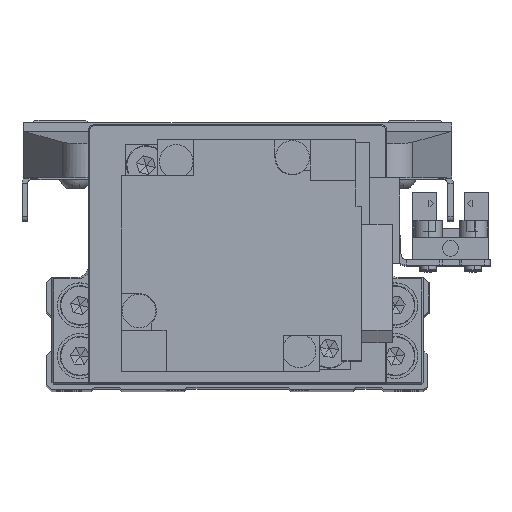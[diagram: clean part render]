
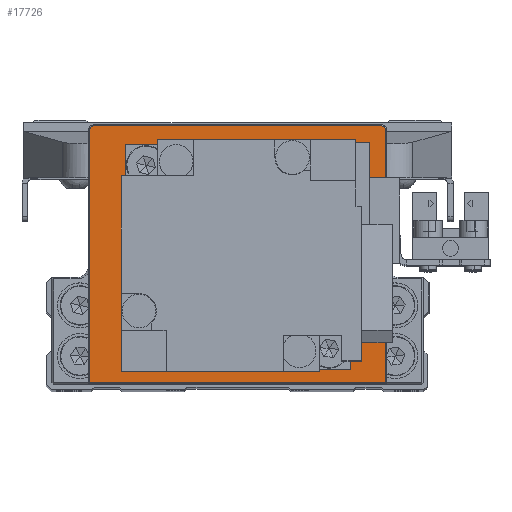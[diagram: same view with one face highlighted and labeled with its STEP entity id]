
A CAD part, top view. The second image highlights one B-rep face of the part: STEP entity #17726.
In plain terms, the highlighted planar face has unit normal (0, 0, 1) as drawn and (0, -1, 0) by its records, which use the part's own axes.
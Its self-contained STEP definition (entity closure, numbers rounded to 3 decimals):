
#19 = CARTESIAN_POINT ( 'NONE',  ( 25.5, -4., 22.8 ) ) ;
#72 = CARTESIAN_POINT ( 'NONE',  ( -26.3, -4., 22. ) ) ;
#1342 = PLANE ( 'NONE',  #17231 ) ;
#1753 = VECTOR ( 'NONE', #2987, 1000. ) ;
#1903 = CARTESIAN_POINT ( 'NONE',  ( 25.5, -4., 22. ) ) ;
#2987 = DIRECTION ( 'NONE',  ( -1., 0., 0. ) ) ;
#3272 = ORIENTED_EDGE ( 'NONE', *, *, #19262, .T. ) ;
#5788 = DIRECTION ( 'NONE',  ( 0., -1., 0. ) ) ;
#5911 = VECTOR ( 'NONE', #18648, 1000. ) ;
#6180 = CARTESIAN_POINT ( 'NONE',  ( -26.3, -4., -23. ) ) ;
#7114 = VECTOR ( 'NONE', #19130, 1000. ) ;
#7195 = CARTESIAN_POINT ( 'NONE',  ( 26.5, -4., -22.8 ) ) ;
#7621 = VERTEX_POINT ( 'NONE', #28137 ) ;
#7675 = CARTESIAN_POINT ( 'NONE',  ( 26.3, -4., 22. ) ) ;
#7991 = CIRCLE ( 'NONE', #28958, 0.8 ) ;
#8071 = EDGE_CURVE ( 'NONE', #7621, #33698, #12110, .T. ) ;
#9381 = VERTEX_POINT ( 'NONE', #26958 ) ;
#11324 = ORIENTED_EDGE ( 'NONE', *, *, #19232, .T. ) ;
#11872 = ORIENTED_EDGE ( 'NONE', *, *, #19069, .T. ) ;
#12110 = CIRCLE ( 'NONE', #33063, 0.8 ) ;
#12779 = CARTESIAN_POINT ( 'NONE',  ( 0., -4., 0. ) ) ;
#13352 = DIRECTION ( 'NONE',  ( 0., -1., 0. ) ) ;
#14207 = EDGE_CURVE ( 'NONE', #9381, #25690, #7991, .T. ) ;
#17231 = AXIS2_PLACEMENT_3D ( 'NONE', #12779, #24213, #35617 ) ;
#17238 = DIRECTION ( 'NONE',  ( 0., 0., -1. ) ) ;
#17252 = LINE ( 'NONE', #28666, #1753 ) ;
#17629 = DIRECTION ( 'NONE',  ( 0., 0., -1. ) ) ;
#17726 = ADVANCED_FACE ( 'NONE', ( #27007 ), #1342, .T. ) ;
#18648 = DIRECTION ( 'NONE',  ( 1., 0., 0. ) ) ;
#19069 = EDGE_CURVE ( 'NONE', #29294, #9381, #33370, .T. ) ;
#19130 = DIRECTION ( 'NONE',  ( 0., 0., 1. ) ) ;
#19232 = EDGE_CURVE ( 'NONE', #25690, #7621, #17252, .T. ) ;
#19262 = EDGE_CURVE ( 'NONE', #33698, #34117, #31850, .T. ) ;
#21285 = ORIENTED_EDGE ( 'NONE', *, *, #14207, .T. ) ;
#24213 = DIRECTION ( 'NONE',  ( 0., -1., 0. ) ) ;
#24781 = DIRECTION ( 'NONE',  ( 0., 0., -1. ) ) ;
#25079 = EDGE_CURVE ( 'NONE', #34117, #29294, #32873, .T. ) ;
#25156 = CARTESIAN_POINT ( 'NONE',  ( -26.3, -4., -22.8 ) ) ;
#25690 = VERTEX_POINT ( 'NONE', #19 ) ;
#26539 = ORIENTED_EDGE ( 'NONE', *, *, #25079, .T. ) ;
#26958 = CARTESIAN_POINT ( 'NONE',  ( 26.3, -4., 22. ) ) ;
#27007 = FACE_OUTER_BOUND ( 'NONE', #32148, .T. ) ;
#27100 = ORIENTED_EDGE ( 'NONE', *, *, #8071, .T. ) ;
#28137 = CARTESIAN_POINT ( 'NONE',  ( -25.5, -4., 22.8 ) ) ;
#28666 = CARTESIAN_POINT ( 'NONE',  ( -25.5, -4., 22.8 ) ) ;
#28958 = AXIS2_PLACEMENT_3D ( 'NONE', #1903, #13352, #24781 ) ;
#29294 = VERTEX_POINT ( 'NONE', #29650 ) ;
#29650 = CARTESIAN_POINT ( 'NONE',  ( 26.3, -4., -22.8 ) ) ;
#31450 = CARTESIAN_POINT ( 'NONE',  ( -25.5, -4., 22. ) ) ;
#31850 = LINE ( 'NONE', #6180, #32258 ) ;
#32148 = EDGE_LOOP ( 'NONE', ( #26539, #11872, #21285, #11324, #27100, #3272 ) ) ;
#32258 = VECTOR ( 'NONE', #17629, 1000. ) ;
#32873 = LINE ( 'NONE', #7195, #5911 ) ;
#33063 = AXIS2_PLACEMENT_3D ( 'NONE', #31450, #5788, #17238 ) ;
#33370 = LINE ( 'NONE', #7675, #7114 ) ;
#33698 = VERTEX_POINT ( 'NONE', #72 ) ;
#34117 = VERTEX_POINT ( 'NONE', #25156 ) ;
#35617 = DIRECTION ( 'NONE',  ( 0., 0., -1. ) ) ;
